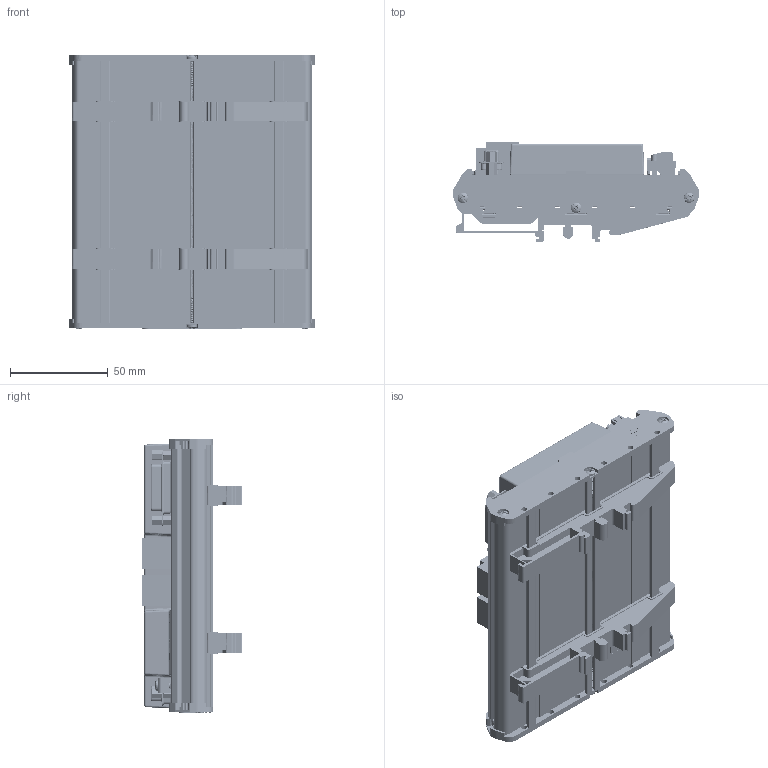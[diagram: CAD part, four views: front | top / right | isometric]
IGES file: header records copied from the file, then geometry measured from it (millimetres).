
Start section: SolidWorks IGES file using analytic representation for surfaces
Global section: file name: C:\Hardware Design\Marketing Graphics\IS008\IS008-02\IS008-02_8-4-08.IGS; native system: SolidWorks 2008; preprocessor: SolidWorks 2008; author: rgainer; date: 080804.081757; units: millimetre
Bounding box: 125.4 x 51.25 x 140.05 mm (x, y, z)
Surface area: 126287.9 mm2 (no closed solid volume)
Topology: 0 solids, 0 shells, 11562 faces, 89700 edges, 89600 vertices
Faces by surface type: bspline 8893, revolution 2669
